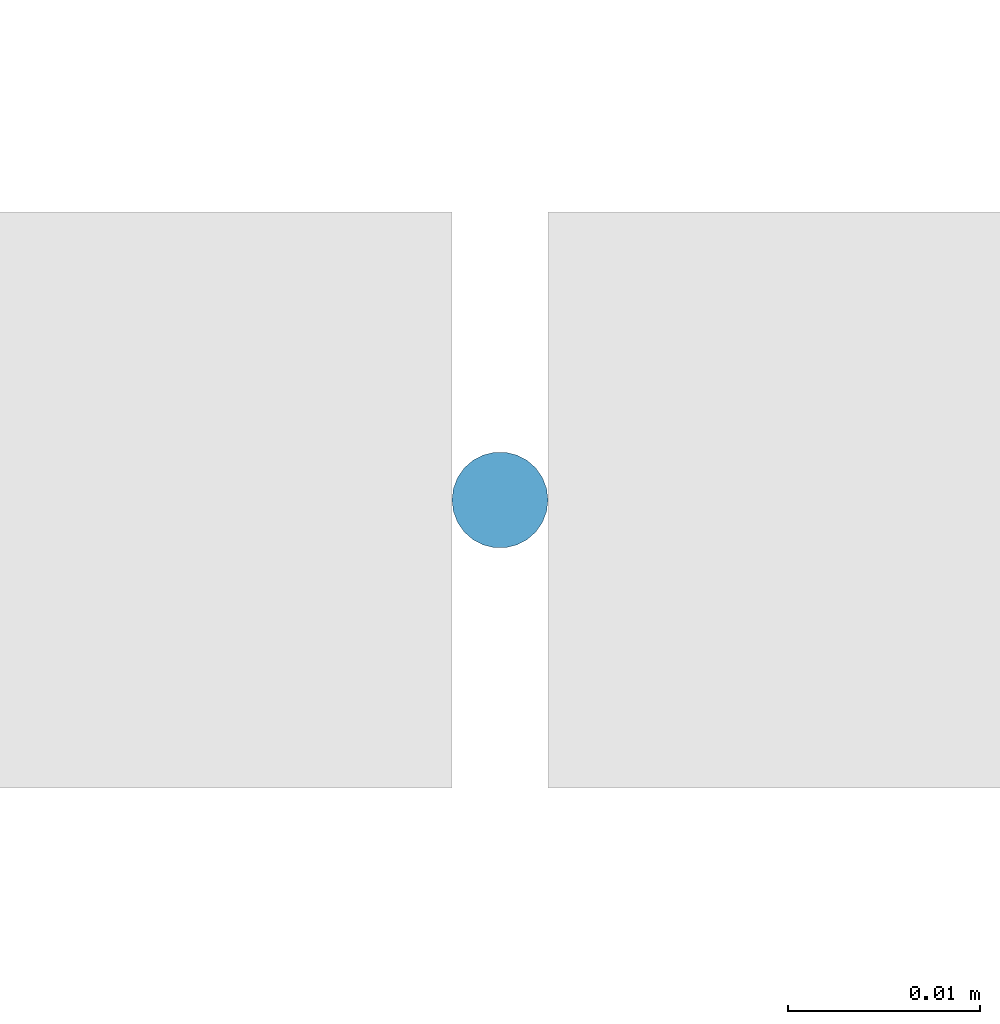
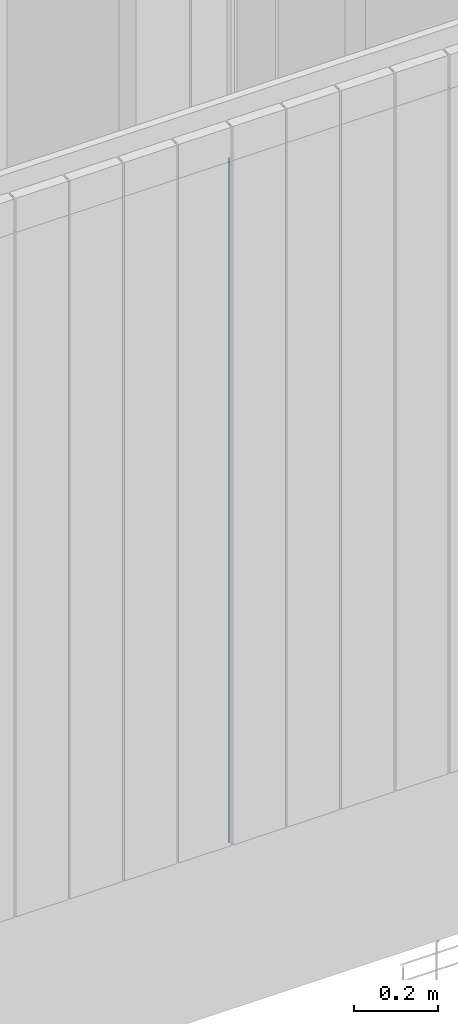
# One storey, part 16 of 81: 1 member, 1 element without a shape of its own.
"""IFC2X3 building model written with IfcOpenShell, lengths in metres."""

from ifc_helpers import new_model, entity, si_unit, converted_unit, derived_unit, direction, frame, frame_2d, origin, place, context, subcontext, project, spatial, circle, extrude, source, transform, mapped, material, type_object, type_shapes, element, aggregate, save


model = new_model("IFC2X3")

# Units and contexts
model_context = context("Model", 3, precision=1e-05, world=origin(), true_north=direction((6.12303176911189e-17, 1.0)))
body_context = subcontext(model_context, "Body", "Model", "MODEL_VIEW")
ifc_project = project(units=[si_unit("LENGTHUNIT", "METRE"), si_unit("AREAUNIT", "SQUARE_METRE"), si_unit("VOLUMEUNIT", "CUBIC_METRE"), converted_unit("PLANEANGLEUNIT", "DEGREE", entity("IfcRatioMeasure", 0.0174532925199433), si_unit("PLANEANGLEUNIT", "RADIAN"), dimensions=[0, 0, 0, 0, 0, 0, 0]), si_unit("MASSUNIT", "GRAM", prefix="KILO"), derived_unit("MASSDENSITYUNIT", [(si_unit("MASSUNIT", "GRAM", prefix="KILO"), 1), (si_unit("LENGTHUNIT", "METRE"), -3)]), derived_unit("MOMENTOFINERTIAUNIT", [(si_unit("LENGTHUNIT", "METRE"), 4)]), si_unit("TIMEUNIT", "SECOND"), si_unit("FREQUENCYUNIT", "HERTZ"), si_unit("THERMODYNAMICTEMPERATUREUNIT", "DEGREE_CELSIUS"), derived_unit("THERMALTRANSMITTANCEUNIT", [(si_unit("MASSUNIT", "GRAM", prefix="KILO"), 1), (si_unit("THERMODYNAMICTEMPERATUREUNIT", "KELVIN"), -1), (si_unit("TIMEUNIT", "SECOND"), -3)]), derived_unit("VOLUMETRICFLOWRATEUNIT", [(si_unit("LENGTHUNIT", "METRE"), 3), (si_unit("TIMEUNIT", "SECOND"), -1)]), si_unit("ELECTRICCURRENTUNIT", "AMPERE"), si_unit("ELECTRICVOLTAGEUNIT", "VOLT"), si_unit("POWERUNIT", "WATT"), si_unit("FORCEUNIT", "NEWTON", prefix="KILO"), si_unit("ILLUMINANCEUNIT", "LUX"), si_unit("LUMINOUSFLUXUNIT", "LUMEN"), si_unit("LUMINOUSINTENSITYUNIT", "CANDELA"), derived_unit("USERDEFINED", [(si_unit("MASSUNIT", "GRAM", prefix="KILO"), -1), (si_unit("LENGTHUNIT", "METRE"), -2), (si_unit("TIMEUNIT", "SECOND"), 3), (si_unit("LUMINOUSFLUXUNIT", "LUMEN"), 1)]), derived_unit("LINEARVELOCITYUNIT", [(si_unit("LENGTHUNIT", "METRE"), 1), (si_unit("TIMEUNIT", "SECOND"), -1)]), si_unit("PRESSUREUNIT", "PASCAL"), derived_unit("USERDEFINED", [(si_unit("LENGTHUNIT", "METRE"), -2), (si_unit("MASSUNIT", "GRAM", prefix="KILO"), 1), (si_unit("TIMEUNIT", "SECOND"), -2)]), derived_unit("LINEARFORCEUNIT", [(si_unit("MASSUNIT", "GRAM", prefix="KILO"), 1), (si_unit("LENGTHUNIT", "METRE"), 1), (si_unit("TIMEUNIT", "SECOND"), -2), (si_unit("LENGTHUNIT", "METRE"), -1)]), derived_unit("PLANARFORCEUNIT", [(si_unit("MASSUNIT", "GRAM", prefix="KILO"), 1), (si_unit("LENGTHUNIT", "METRE"), 1), (si_unit("TIMEUNIT", "SECOND"), -2), (si_unit("LENGTHUNIT", "METRE"), -2)])], contexts=[model_context])

# Site, building, storey
site_placement = place(None, origin())
site = spatial("IfcSite", under=ifc_project, at=site_placement, Name="Surface", CompositionType="ELEMENT")
building_placement = place(site_placement, origin())
building = spatial("IfcBuilding", under=site, at=building_placement, CompositionType="ELEMENT")
storey_placement = place(building_placement, origin())
storey = spatial("IfcBuildingStorey", under=building, at=storey_placement, Name="01 RDC", CompositionType="ELEMENT", Elevation=-1.94916083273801e-14)

# Curtain wall, member
curtain_wall_type = type_object("IfcCurtainWallType", Name="Mur-rideau:1m x 2m", PredefinedType="NOTDEFINED")
curtain_wall_placement = place(storey_placement, origin())
curtain_wall = element("IfcCurtainWall", 1, at=curtain_wall_placement, inside=storey, type_object=curtain_wall_type, Name="Mur-rideau:1m x 2m", ObjectType="Mur-rideau:1m x 2m")
ifc_material = material(Name="Aluminium - Vert")
member_type = type_object("IfcMemberType", Name="Meneau circulaire:R-30 mm", PredefinedType="MULLION", material=ifc_material)
shared_shape = source(origin(), body_context, "Body", "SweptSolid", [
    extrude(circle(Radius=0.0025, at=frame_2d((-8.37005581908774e-27, 3.23452349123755e-15), x_axis=(1.0, 0.0))), frame((0.0, 0.0, -2.0), z_axis=(0.0, 0.0, 1.0), x_axis=(-1.0, 0.0, 0.0)), (0.0, 0.0, 1.0), 2.0),
])
type_shapes(member_type, [shared_shape])
member_placement = place(storey_placement, frame((6.96906158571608, -6.30971095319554, 0.3), z_axis=(0.0, 0.0, -1.0), x_axis=(-1.0, 0.0, 0.0)))
member = element("IfcMember", 2, at=member_placement, type_object=member_type, material=ifc_material, Name="Meneau circulaire:R-30 mm", ObjectType="Meneau circulaire:R-30 mm", context=body_context, shape_type="MappedRepresentation", body=[
    mapped(shared_shape, transform((0.0, 0.0, 0.0), scale=1.0)),
])
aggregate(curtain_wall, [member])

save(model, "model.ifc")
